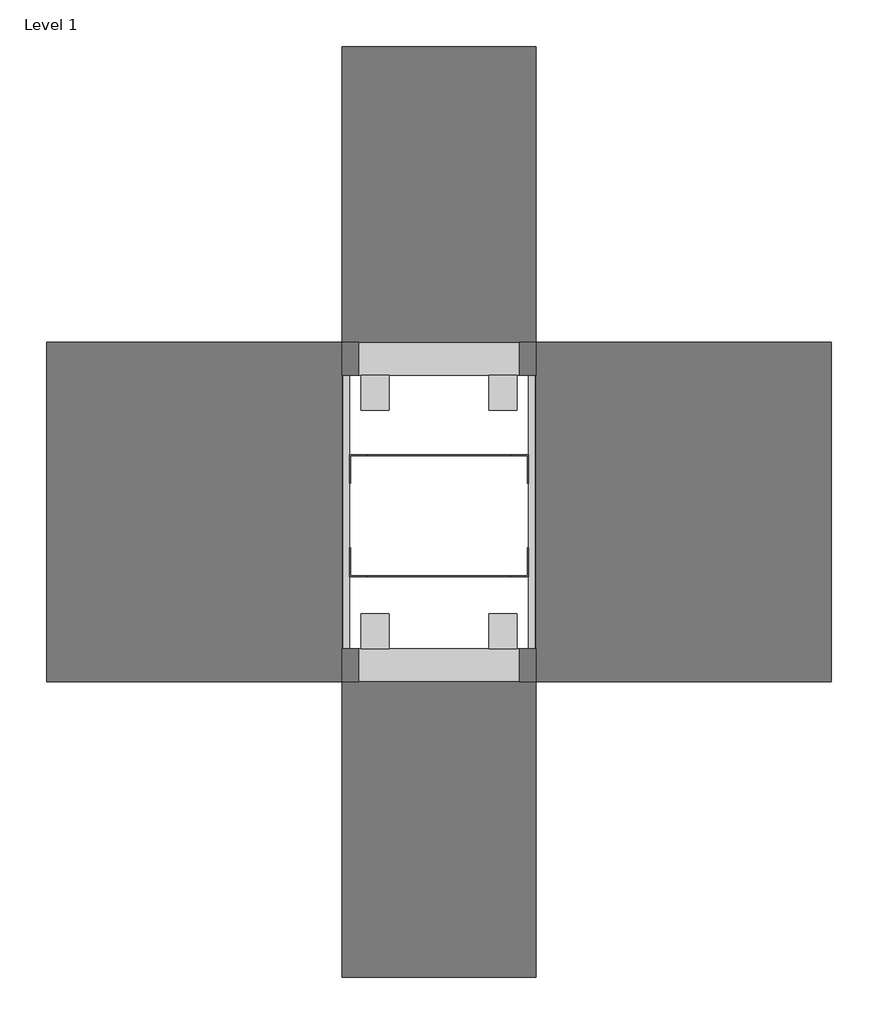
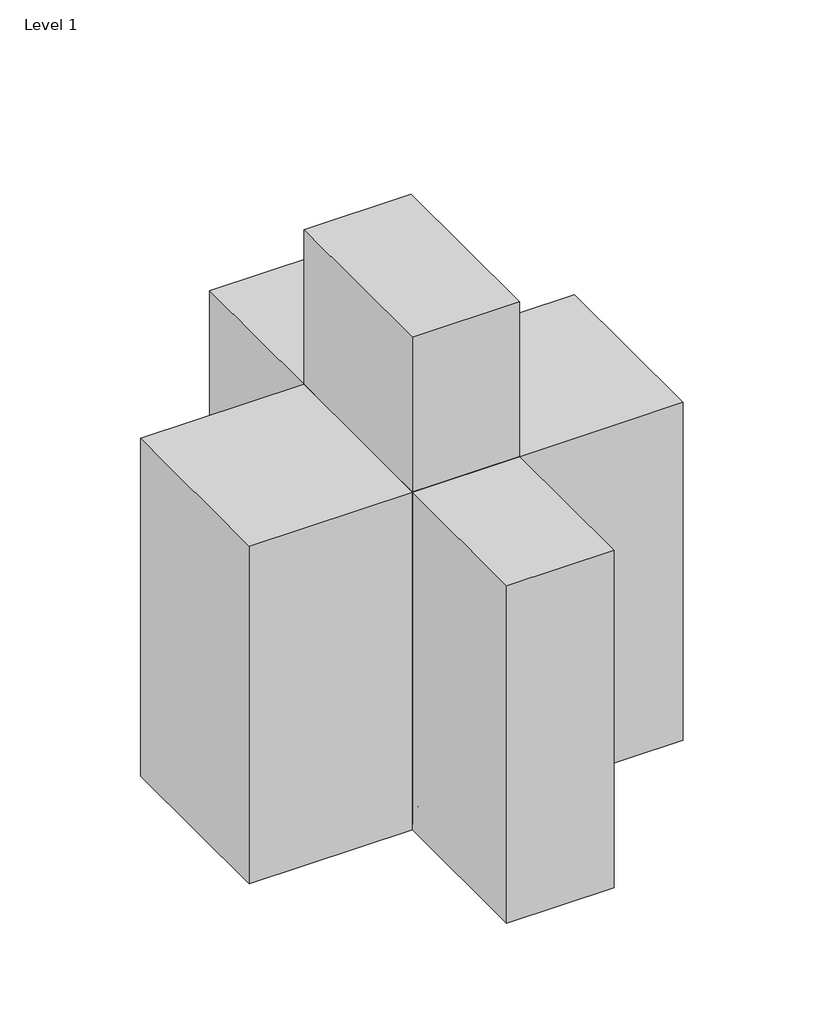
# One storey, incomplete: 1 electric appliance.
"""IFC4 building model written with IfcOpenShell, lengths in millimetres."""

import ifcopenshell
import ifcopenshell.guid

model = None  # the IFC model being written
_history = None  # IfcOwnerHistory: only IFC2X3 demands one
_inside = {}  # id of a spatial element -> (the spatial element, [elements in it])
_under = {}  # id of a project, library or spatial element -> (it, [spatial elements below it])
_declared = {}  # id of a project -> (the project, [libraries it declares])
_typed = {}  # id of a type object -> (the type object, [elements of that type])
_made_of = {}  # id of a material, layer set ... -> (it, [elements and type objects made of it])


def new_model(schema):
    """Start an empty IFC model of exactly this schema.

    Asked for "IFC4X3", IfcOpenShell would pick the latest addendum, in which some entities
    have other attributes; the version numbers below select the first issue.
    IFC2X3 requires an IfcOwnerHistory on every rooted entity: one is made here for all.
    """
    global model, _history
    if schema == "IFC4X3":
        model = ifcopenshell.file(schema_version=(4, 3, 0, 0))
    else:
        model = ifcopenshell.file(schema=schema)
    _inside.clear()
    _under.clear()
    _declared.clear()
    _typed.clear()
    _made_of.clear()
    _history = None
    if model.schema == "IFC2X3":
        org = make("IfcOrganization", Name="unknown")
        user = make(
            "IfcPersonAndOrganization",
            ThePerson=make("IfcPerson", FamilyName="unknown"),
            TheOrganization=org,
        )
        app = make(
            "IfcApplication",
            ApplicationDeveloper=org,
            Version="unknown",
            ApplicationFullName="unknown",
            ApplicationIdentifier="unknown",
        )
        _history = make(
            "IfcOwnerHistory",
            OwningUser=user,
            OwningApplication=app,
            ChangeAction="ADDED",
            CreationDate=0,
        )
    return model


def make(cls, **values):
    """One entity of the class cls with the attributes given. An attribute that is None is left unset."""
    return model.create_entity(
        cls, **{name: value for name, value in values.items() if value is not None}
    )


def rooted(cls, **values):
    """An entity with a GlobalId (a new one), such as an element, a storey or a relation."""
    return make(cls, GlobalId=ifcopenshell.guid.new(), OwnerHistory=_history, **values)


def si_unit(unit_type, name, prefix=None):
    """IfcSIUnit, for example si_unit("LENGTHUNIT", "METRE", prefix="MILLI")."""
    return make("IfcSIUnit", UnitType=unit_type, Prefix=prefix, Name=name)


def assignment(units):
    """IfcUnitAssignment: the units of a project."""
    return None if units is None else make("IfcUnitAssignment", Units=units)


def point(xyz):
    """IfcCartesianPoint."""
    return None if xyz is None else make("IfcCartesianPoint", Coordinates=xyz)


def direction(xyz):
    """IfcDirection."""
    return None if xyz is None else make("IfcDirection", DirectionRatios=xyz)


def frame(location, z_axis=None, x_axis=None):
    """IfcAxis2Placement3D, a coordinate frame: its origin and axes. An axis left out is left unset."""
    return make(
        "IfcAxis2Placement3D",
        Location=point(location),
        Axis=direction(z_axis),
        RefDirection=direction(x_axis),
    )


def origin():
    """The frame at (0, 0, 0) with its axes left unset."""
    return frame((0.0, 0.0, 0.0))


def origin_with_axes():
    """The frame at (0, 0, 0) with the z axis (0, 0, 1) and the x axis (1, 0, 0) written out."""
    return frame((0.0, 0.0, 0.0), z_axis=(0.0, 0.0, 1.0), x_axis=(1.0, 0.0, 0.0))


def place(relative_to, where):
    """IfcLocalPlacement: puts the frame where relative to a parent placement (None: the world)."""
    return make(
        "IfcLocalPlacement", PlacementRelTo=relative_to, RelativePlacement=where
    )


def context(
    kind, dimensions, precision=None, world=None, true_north=None, identifier=None
):
    """IfcGeometricRepresentationContext, for example the 3D "Model" context."""
    return make(
        "IfcGeometricRepresentationContext",
        ContextIdentifier=identifier,
        ContextType=kind,
        CoordinateSpaceDimension=dimensions,
        Precision=precision,
        WorldCoordinateSystem=world,
        TrueNorth=true_north,
    )


def project(units=None, contexts=None):
    """IfcProject with its units and contexts."""
    return rooted(
        "IfcProject",
        Name="project",
        RepresentationContexts=contexts,
        UnitsInContext=assignment(units),
    )


def spatial(cls, under=None, at=None, **own):
    """A site, building, storey or space (cls), placed at a placement, below another one or the project."""
    s = rooted(cls, ObjectPlacement=at, **own)
    if under is not None:
        _under.setdefault(under.id(), (under, []))[1].append(s)
    return s


def polyline(points):
    """IfcPolyline through the points."""
    return make("IfcPolyline", Points=[point(p) for p in points])


def circle_curve(where, radius):
    """IfcCircle in the frame where."""
    return make("IfcCircle", Position=where, Radius=radius)


def outline(outer, holes=None, kind="AREA"):
    """IfcArbitraryClosedProfileDef: a profile drawn as a closed curve; with holes, ...WithVoids."""
    if holes is None:
        return make("IfcArbitraryClosedProfileDef", ProfileType=kind, OuterCurve=outer)
    return make(
        "IfcArbitraryProfileDefWithVoids",
        ProfileType=kind,
        OuterCurve=outer,
        InnerCurves=holes,
    )


def extrude(swept, where, along, depth):
    """IfcExtrudedAreaSolid: the profile swept, set in the frame where, extruded along a direction by depth."""
    return make(
        "IfcExtrudedAreaSolid",
        SweptArea=swept,
        Position=where,
        ExtrudedDirection=direction(along),
        Depth=depth,
    )


def shape(context_of_items, identifier, shape_type, items):
    """IfcShapeRepresentation: the items that make up one representation, for example the "Body"."""
    return make(
        "IfcShapeRepresentation",
        ContextOfItems=context_of_items,
        RepresentationIdentifier=identifier,
        RepresentationType=shape_type,
        Items=items,
    )


def source(mapping_origin, context_of_items, identifier, shape_type, items):
    """IfcRepresentationMap: a shape defined once, which mapped items show again and again."""
    return make(
        "IfcRepresentationMap",
        MappingOrigin=mapping_origin,
        MappedRepresentation=shape(context_of_items, identifier, shape_type, items),
    )


def transform(
    local_origin,
    x_axis=None,
    y_axis=None,
    z_axis=None,
    scale=None,
    scale2=None,
    scale3=None,
    uniform=True,
):
    """IfcCartesianTransformationOperator3D, or its non-uniform kind. x_axis, y_axis, z_axis: its Axis1, 2, 3."""
    if uniform:
        return make(
            "IfcCartesianTransformationOperator3D",
            Axis1=direction(x_axis),
            Axis2=direction(y_axis),
            LocalOrigin=point(local_origin),
            Scale=scale,
            Axis3=direction(z_axis),
        )
    return make(
        "IfcCartesianTransformationOperator3DnonUniform",
        Axis1=direction(x_axis),
        Axis2=direction(y_axis),
        LocalOrigin=point(local_origin),
        Scale=scale,
        Axis3=direction(z_axis),
        Scale2=scale2,
        Scale3=scale3,
    )


def mapped(mapping_source, mapping_target):
    """IfcMappedItem: shows the shape of a source again, moved by a transform."""
    return make(
        "IfcMappedItem", MappingSource=mapping_source, MappingTarget=mapping_target
    )


def made_of(thing, what):
    """Note that an element or type object is made of a material, layer set ...; save() writes the relation."""
    if what is not None:
        _made_of.setdefault(what.id(), (what, []))[1].append(thing)
    return thing


def element(
    cls,
    number,
    at=None,
    inside=None,
    cuts=None,
    type_object=None,
    material=None,
    context=None,
    identifier="Body",
    shape_type=None,
    held_by="IfcProductDefinitionShape",
    body=None,
    shapes=None,
    **own,
):
    """One element of the class cls, such as IfcWall. Its Tag is "e" and its number.

    at: its placement. inside: the storey or other place that contains it. cuts: it is an
    opening in that element (IfcRelVoidsElement). A single representation is given by context,
    identifier, shape_type and body (its items); several are given by shapes. held_by: the class
    of the entity that holds the representations. save() writes the other relations.
    """
    e = rooted(cls, Tag="e%d" % number, ObjectPlacement=at, **own)
    if body is not None:
        shapes = [shape(context, identifier, shape_type, body)]
    if shapes is not None:
        e.Representation = make(held_by, Representations=shapes)
    if inside is not None:
        _inside.setdefault(inside.id(), (inside, []))[1].append(e)
    if cuts is not None:
        rooted(
            "IfcRelVoidsElement", RelatingBuildingElement=cuts, RelatedOpeningElement=e
        )
    if type_object is not None:
        _typed.setdefault(type_object.id(), (type_object, []))[1].append(e)
    return made_of(e, material)


def aggregate(whole, parts):
    """IfcRelAggregates: a whole, such as a stair, and the parts it consists of."""
    return rooted("IfcRelAggregates", RelatingObject=whole, RelatedObjects=parts)


def save(model, path):
    """Write the relations noted so far, then the file.

    IfcRelAggregates (storeys below a building ...), IfcRelContainedInSpatialStructure (elements
    in a storey), IfcRelDefinesByType, IfcRelAssociatesMaterial and IfcRelDeclares: one each for
    every whole, place, type object, material and project.
    """
    for whole, parts in _under.values():
        aggregate(whole, parts)
    for where, things in _inside.values():
        rooted(
            "IfcRelContainedInSpatialStructure",
            RelatedElements=things,
            RelatingStructure=where,
        )
    for kind, things in _typed.values():
        rooted("IfcRelDefinesByType", RelatedObjects=things, RelatingType=kind)
    for what, things in _made_of.values():
        rooted("IfcRelAssociatesMaterial", RelatedObjects=things, RelatingMaterial=what)
    for by, libraries in _declared.values():
        rooted("IfcRelDeclares", RelatingContext=by, RelatedDefinitions=libraries)
    model.write(path)


def plane_surface(at):
    """IfcPlane: the flat surface through the origin of the frame at, square to its z axis."""
    return make("IfcPlane", Position=at)


def cylinder_surface(at, radius):
    """IfcCylindricalSurface: all points at the distance radius from the z axis of the frame at."""
    return make("IfcCylindricalSurface", Position=at, Radius=radius)


def advanced_brep(points, edges, surfaces, faces):
    """IfcAdvancedBrep: a solid bounded by faces that lie on surfaces and meet in shared edges.

    An edge is (start, end): straight between two places in points (the first is 0);
    or (start, end, curve); or (start, end, curve, False) where it runs against its curve.
    A face is (place in surfaces, loops), or (place, loops, False) where it looks against
    its surface's normal. A loop lists edges by number (the first is 1), with a minus sign
    where the edge is run from its end to its start. The first loop is the outer one.
    """
    corners = [point(p) for p in points]
    vertices = [make("IfcVertexPoint", VertexGeometry=c) for c in corners]
    made = []
    for start, end, *more in edges:
        made.append(
            make(
                "IfcEdgeCurve",
                EdgeStart=vertices[start],
                EdgeEnd=vertices[end],
                EdgeGeometry=more[0] if more else make("IfcPolyline", Points=[corners[start], corners[end]]),
                SameSense=more[1] if len(more) > 1 else True,
            )
        )
    hull = []
    for where, loops, *sense in faces:
        bounds = []
        for j, loop in enumerate(loops):
            ring = [make("IfcOrientedEdge", EdgeElement=made[abs(k) - 1], Orientation=k > 0) for k in loop]
            bounds.append(
                make(
                    "IfcFaceOuterBound" if j == 0 else "IfcFaceBound",
                    Bound=make("IfcEdgeLoop", EdgeList=ring),
                    Orientation=True,
                )
            )
        hull.append(make("IfcAdvancedFace", Bounds=bounds, FaceSurface=surfaces[where], SameSense=sense[0] if sense else True))
    return make("IfcAdvancedBrep", Outer=make("IfcClosedShell", CfsFaces=hull))


def electric_appliance_40_ru_fa5b6344(model_context):
    return source(origin(), model_context, "Body", "SolidModel", [
        extrude(outline(polyline([(-155.2194, -423.4053), (-241.5794, -423.4053), (-241.5794, -314.1853), (-155.2194, -314.1853), (-155.2194, -423.4053)])), frame((0.0, 0.0, 32.5), z_axis=(0.0, 0.0, 1.0), x_axis=(1.0, 0.0, 0.0)), (0.0, 0.0, 1.0), 76.2),
        extrude(outline(polyline([(-155.2194, 423.4053), (-155.2194, 314.1853), (-241.5794, 314.1853), (-241.5794, 423.4053), (-155.2194, 423.4053)])), frame((0.0, 0.0, 32.5), z_axis=(0.0, 0.0, 1.0), x_axis=(1.0, 0.0, 0.0)), (0.0, 0.0, 1.0), 76.2),
        extrude(outline(polyline([(155.2194, 423.4053), (241.5794, 423.4053), (241.5794, 314.1853), (155.2194, 314.1853), (155.2194, 423.4053)])), frame((0.0, 0.0, 32.5), z_axis=(0.0, 0.0, 1.0), x_axis=(1.0, 0.0, 0.0)), (0.0, 0.0, 1.0), 76.2),
        extrude(outline(polyline([(155.2194, -423.4053), (155.2194, -314.1853), (241.5794, -314.1853), (241.5794, -423.4053), (155.2194, -423.4053)])), frame((0.0, 0.0, 32.5), z_axis=(0.0, 0.0, 1.0), x_axis=(1.0, 0.0, 0.0)), (0.0, 0.0, 1.0), 76.2),
        extrude(outline(polyline([(1997.825, 299.9994), (1997.825, -299.9994), (32.5, -299.9994), (32.5, 299.9994), (1997.825, 299.9994)]), holes=[polyline([(1921.625, 249.1994), (108.7, 249.1994), (108.7, -249.1994), (1921.625, -249.1994), (1921.625, 249.1994)])]), frame((0.0, 423.4053, 0.0), z_axis=(0.0, 1.0, 0.0), x_axis=(0.0, 0.0, 1.0)), (0.0, 0.0, 1.0), 101.6),
        extrude(outline(polyline([(1997.825, 299.9994), (1997.825, -299.9994), (32.5, -299.9994), (32.5, 299.9994), (1997.825, 299.9994)]), holes=[polyline([(1921.625, 249.1994), (108.7, 249.1994), (108.7, -249.1994), (1921.625, -249.1994), (1921.625, 249.1994)])]), frame((0.0, -525.0053, 0.0), z_axis=(0.0, 1.0, 0.0), x_axis=(0.0, 0.0, 1.0)), (0.0, 0.0, 1.0), 101.6),
        extrude(outline(polyline([(-276.6494, -423.4053), (-296.6494, -423.4053), (-296.6494, 423.4053), (-276.6494, 423.4053), (-276.6494, -423.4053)])), frame((0.0, 0.0, 32.5), z_axis=(0.0, 0.0, 1.0), x_axis=(1.0, 0.0, 0.0)), (0.0, 0.0, 1.0), 137.5),
        extrude(outline(polyline([(296.6494, -423.4053), (276.6494, -423.4053), (276.6494, 423.4053), (296.6494, 423.4053), (296.6494, -423.4053)])), frame((0.0, 0.0, 32.5), z_axis=(0.0, 0.0, 1.0), x_axis=(1.0, 0.0, 0.0)), (0.0, 0.0, 1.0), 137.5),
        extrude(outline(polyline([(296.6494, -423.4053), (276.6494, -423.4053), (276.6494, 423.4053), (296.6494, 423.4053), (296.6494, -423.4053)])), frame((0.0, 0.0, 1860.325), z_axis=(0.0, 0.0, 1.0), x_axis=(1.0, 0.0, 0.0)), (0.0, 0.0, 1.0), 137.5),
        extrude(outline(polyline([(-276.6494, -423.4053), (-296.6494, -423.4053), (-296.6494, 423.4053), (-276.6494, 423.4053), (-276.6494, -423.4053)])), frame((0.0, 0.0, 1860.325), z_axis=(0.0, 0.0, 1.0), x_axis=(1.0, 0.0, 0.0)), (0.0, 0.0, 1.0), 137.5),
        extrude(outline(polyline([(-276.6494, -423.4053), (-296.6494, -423.4053), (-296.6494, 423.4053), (-276.6494, 423.4053), (-276.6494, -423.4053)])), frame((0.0, 0.0, 945.3125), z_axis=(0.0, 0.0, 1.0), x_axis=(1.0, 0.0, 0.0)), (0.0, 0.0, 1.0), 139.7),
        extrude(outline(polyline([(296.6494, -423.4053), (276.6494, -423.4053), (276.6494, 423.4053), (296.6494, 423.4053), (296.6494, -423.4053)])), frame((0.0, 0.0, 945.3125), z_axis=(0.0, 0.0, 1.0), x_axis=(1.0, 0.0, 0.0)), (0.0, 0.0, 1.0), 139.7),
        advanced_brep(
        [(177.7619, 368.7953, 16.25), (177.7619, 368.7953, 0.0), (177.7619, 368.7953, 32.5), (219.0369, 368.7953, 0.0), (219.0369, 368.7953, 32.5), (219.0369, 368.7953, 16.25)],
        [
            (0, 1),
            (1, 2, circle_curve(frame((177.7619, 368.7953, 16.25), z_axis=(-1.0, 0.0, 0.0), x_axis=(0.0, 0.0, -1.0)), 16.25)),
            (2, 0),
            (2, 1, circle_curve(frame((177.7619, 368.7953, 16.25), z_axis=(-1.0, 0.0, 0.0), x_axis=(0.0, 0.0, -1.0)), 16.25)),
            (1, 3),
            (3, 4, circle_curve(frame((219.0369, 368.7953, 16.25), z_axis=(-1.0, 0.0, 0.0), x_axis=(0.0, 0.0, -1.0)), 16.25)),
            (4, 2),
            (4, 3, circle_curve(frame((219.0369, 368.7953, 16.25), z_axis=(-1.0, 0.0, 0.0), x_axis=(0.0, 0.0, -1.0)), 16.25)),
            (3, 5),
            (5, 4),
        ],
        [
            plane_surface(frame((177.7619, 368.7953, 16.25), z_axis=(-1.0, 0.0, 0.0), x_axis=(0.0, 0.0, -1.0))),
            cylinder_surface(frame((-1210.2260115, 368.7953, 16.25), z_axis=(-1.0, 0.0, 0.0), x_axis=(0.0, 0.0, -1.0)), 16.25),
            plane_surface(frame((219.0369, 368.7953, 16.25), z_axis=(1.0, 0.0, 0.0), x_axis=(0.0, 0.0, -1.0))),
        ],
        [
            (0, [[1, 2, 3]]),
            (0, [[-3, 4, -1]]),
            (1, [[-2, 5, 6, 7]]),
            (1, [[-4, -7, 8, -5]]),
            (2, [[-6, 9, 10]]),
            (2, [[-8, -10, -9]]),
        ],
    ),
        advanced_brep(
        [(-219.0369, 368.7953, 16.25), (-219.0369, 368.7953, 0.0), (-219.0369, 368.7953, 32.5), (-177.7619, 368.7953, 0.0), (-177.7619, 368.7953, 32.5), (-177.7619, 368.7953, 16.25)],
        [
            (0, 1),
            (1, 2, circle_curve(frame((-219.0369, 368.7953, 16.25), z_axis=(-1.0, 0.0, 0.0), x_axis=(0.0, 0.0, -1.0)), 16.25)),
            (2, 0),
            (2, 1, circle_curve(frame((-219.0369, 368.7953, 16.25), z_axis=(-1.0, 0.0, 0.0), x_axis=(0.0, 0.0, -1.0)), 16.25)),
            (1, 3),
            (3, 4, circle_curve(frame((-177.7619, 368.7953, 16.25), z_axis=(-1.0, 0.0, 0.0), x_axis=(0.0, 0.0, -1.0)), 16.25)),
            (4, 2),
            (4, 3, circle_curve(frame((-177.7619, 368.7953, 16.25), z_axis=(-1.0, 0.0, 0.0), x_axis=(0.0, 0.0, -1.0)), 16.25)),
            (3, 5),
            (5, 4),
        ],
        [
            plane_surface(frame((-219.0369, 368.7953, 16.25), z_axis=(-1.0, 0.0, 0.0), x_axis=(0.0, 0.0, -1.0))),
            cylinder_surface(frame((-1210.2260115, 368.7953, 16.25), z_axis=(-1.0, 0.0, 0.0), x_axis=(0.0, 0.0, -1.0)), 16.25),
            plane_surface(frame((-177.7619, 368.7953, 16.25), z_axis=(1.0, 0.0, 0.0), x_axis=(0.0, 0.0, -1.0))),
        ],
        [
            (0, [[1, 2, 3]]),
            (0, [[-3, 4, -1]]),
            (1, [[-2, 5, 6, 7]]),
            (1, [[-4, -7, 8, -5]]),
            (2, [[-6, 9, 10]]),
            (2, [[-8, -10, -9]]),
        ],
    ),
        advanced_brep(
        [(177.7619, -368.7953, 16.25), (177.7619, -368.7953, 0.0), (177.7619, -368.7953, 32.5), (219.0369, -368.7953, 0.0), (219.0369, -368.7953, 32.5), (219.0369, -368.7953, 16.25)],
        [
            (0, 1),
            (1, 2, circle_curve(frame((177.7619, -368.7953, 16.25), z_axis=(-1.0, 0.0, 0.0), x_axis=(0.0, 0.0, -1.0)), 16.25)),
            (2, 0),
            (2, 1, circle_curve(frame((177.7619, -368.7953, 16.25), z_axis=(-1.0, 0.0, 0.0), x_axis=(0.0, 0.0, -1.0)), 16.25)),
            (1, 3),
            (3, 4, circle_curve(frame((219.0369, -368.7953, 16.25), z_axis=(-1.0, 0.0, 0.0), x_axis=(0.0, 0.0, -1.0)), 16.25)),
            (4, 2),
            (4, 3, circle_curve(frame((219.0369, -368.7953, 16.25), z_axis=(-1.0, 0.0, 0.0), x_axis=(0.0, 0.0, -1.0)), 16.25)),
            (3, 5),
            (5, 4),
        ],
        [
            plane_surface(frame((177.7619, -368.7953, 16.25), z_axis=(-1.0, 0.0, 0.0), x_axis=(0.0, 0.0, -1.0))),
            cylinder_surface(frame((-1210.2260115, -368.7953, 16.25), z_axis=(-1.0, 0.0, 0.0), x_axis=(0.0, 0.0, -1.0)), 16.25),
            plane_surface(frame((219.0369, -368.7953, 16.25), z_axis=(1.0, 0.0, 0.0), x_axis=(0.0, 0.0, -1.0))),
        ],
        [
            (0, [[1, 2, 3]]),
            (0, [[-3, 4, -1]]),
            (1, [[-2, 5, 6, 7]]),
            (1, [[-4, -7, 8, -5]]),
            (2, [[-6, 9, 10]]),
            (2, [[-8, -10, -9]]),
        ],
    ),
        advanced_brep(
        [(-219.0369, -368.7953, 16.25), (-219.0369, -368.7953, 0.0), (-219.0369, -368.7953, 32.5), (-177.7619, -368.7953, 0.0), (-177.7619, -368.7953, 32.5), (-177.7619, -368.7953, 16.25)],
        [
            (0, 1),
            (1, 2, circle_curve(frame((-219.0369, -368.7953, 16.25), z_axis=(-1.0, 0.0, 0.0), x_axis=(0.0, 0.0, -1.0)), 16.25)),
            (2, 0),
            (2, 1, circle_curve(frame((-219.0369, -368.7953, 16.25), z_axis=(-1.0, 0.0, 0.0), x_axis=(0.0, 0.0, -1.0)), 16.25)),
            (1, 3),
            (3, 4, circle_curve(frame((-177.7619, -368.7953, 16.25), z_axis=(-1.0, 0.0, 0.0), x_axis=(0.0, 0.0, -1.0)), 16.25)),
            (4, 2),
            (4, 3, circle_curve(frame((-177.7619, -368.7953, 16.25), z_axis=(-1.0, 0.0, 0.0), x_axis=(0.0, 0.0, -1.0)), 16.25)),
            (3, 5),
            (5, 4),
        ],
        [
            plane_surface(frame((-219.0369, -368.7953, 16.25), z_axis=(-1.0, 0.0, 0.0), x_axis=(0.0, 0.0, -1.0))),
            cylinder_surface(frame((-1210.2260115, -368.7953, 16.25), z_axis=(-1.0, 0.0, 0.0), x_axis=(0.0, 0.0, -1.0)), 16.25),
            plane_surface(frame((-177.7619, -368.7953, 16.25), z_axis=(1.0, 0.0, 0.0), x_axis=(0.0, 0.0, -1.0))),
        ],
        [
            (0, [[1, 2, 3]]),
            (0, [[-3, 4, -1]]),
            (1, [[-2, 5, 6, 7]]),
            (1, [[-4, -7, 8, -5]]),
            (2, [[-6, 9, 10]]),
            (2, [[-8, -10, -9]]),
        ],
    ),
        extrude(outline(polyline([(-222.25, -196.8197), (-222.25, -199.9947), (-276.6494, -199.9947), (-276.6494, -111.0947), (-273.4744, -111.0947), (-273.4744, -196.8197), (-222.25, -196.8197)])), frame((0.0, 0.0, 108.7), z_axis=(0.0, 0.0, 1.0), x_axis=(1.0, 0.0, 0.0)), (0.0, 0.0, 1.0), 1812.925),
        extrude(outline(polyline([(-222.25, 173.8197), (-273.4744, 173.8197), (-273.4744, 88.0947), (-276.6494, 88.0947), (-276.6494, 176.9947), (-222.25, 176.9947), (-222.25, 173.8197)])), frame((0.0, 0.0, 108.7), z_axis=(0.0, 0.0, 1.0), x_axis=(1.0, 0.0, 0.0)), (0.0, 0.0, 1.0), 1812.925),
        extrude(outline(polyline([(222.25, -196.8197), (273.4744, -196.8197), (273.4744, -111.0947), (276.6494, -111.0947), (276.6494, -199.9947), (222.25, -199.9947), (222.25, -196.8197)])), frame((0.0, 0.0, 108.7), z_axis=(0.0, 0.0, 1.0), x_axis=(1.0, 0.0, 0.0)), (0.0, 0.0, 1.0), 1812.925),
        extrude(outline(polyline([(222.25, 173.8197), (222.25, 176.9947), (276.6494, 176.9947), (276.6494, 88.0947), (273.4744, 88.0947), (273.4744, 173.8197), (222.25, 173.8197)])), frame((0.0, 0.0, 108.7), z_axis=(0.0, 0.0, 1.0), x_axis=(1.0, 0.0, 0.0)), (0.0, 0.0, 1.0), 1812.925),
        extrude(outline(polyline([(222.25, -196.8197), (222.25, -199.9947), (-222.25, -199.9947), (-222.25, -196.8197), (222.25, -196.8197)])), frame((0.0, 0.0, 108.7), z_axis=(0.0, 0.0, 1.0), x_axis=(1.0, 0.0, 0.0)), (0.0, 0.0, 1.0), 1812.925),
        extrude(outline(polyline([(222.25, 176.9947), (222.25, 173.8197), (-222.25, 173.8197), (-222.25, 176.9947), (222.25, 176.9947)])), frame((0.0, 0.0, 108.7), z_axis=(0.0, 0.0, 1.0), x_axis=(1.0, 0.0, 0.0)), (0.0, 0.0, 1.0), 1812.925),
        extrude(outline(polyline([(299.9994, 525.0053), (299.9994, -525.0053), (-299.9994, -525.0053), (-299.9994, 525.0053), (299.9994, 525.0053)])), frame((0.0, 0.0, 1997.825), z_axis=(0.0, 0.0, 1.0), x_axis=(1.0, 0.0, 0.0)), (0.0, 0.0, 1.0), 914.4),
        extrude(outline(polyline([(299.9994, -1439.4053), (-299.9994, -1439.4053), (-299.9994, -525.0053), (299.9994, -525.0053), (299.9994, -1439.4053)])), origin_with_axes(), (0.0, 0.0, 1.0), 1997.825),
        extrude(outline(polyline([(299.9994, 1439.4053), (299.9994, 525.0053), (-299.9994, 525.0053), (-299.9994, 1439.4053), (299.9994, 1439.4053)])), origin_with_axes(), (0.0, 0.0, 1.0), 1997.825),
        extrude(outline(polyline([(1214.3994, 525.0053), (1214.3994, -525.0053), (299.9994, -525.0053), (299.9994, 525.0053), (1214.3994, 525.0053)])), origin_with_axes(), (0.0, 0.0, 1.0), 1997.825),
        extrude(outline(polyline([(-299.9994, -525.0053), (-1214.3994, -525.0053), (-1214.3994, 525.0053), (-299.9994, 525.0053), (-299.9994, -525.0053)])), origin_with_axes(), (0.0, 0.0, 1.0), 1997.825),
    ])


model = new_model("IFC4")

# Units and contexts
model_context = context("Model", 3, world=origin())
ifc_project = project(units=[si_unit("LENGTHUNIT", "METRE", prefix="MILLI")], contexts=[model_context])

# Site, building, storey
site = spatial("IfcSite", under=ifc_project)
building = spatial("IfcBuilding", under=site)
storey = spatial("IfcBuildingStorey", under=building, Name="Level 1", Elevation=0.0)

# Electric appliance
placement = place(None, origin())
electric_appliance_40_ru_shape = electric_appliance_40_ru_fa5b6344(model_context)
element("IfcElectricAppliance", 1, ObjectType="Cabinet-Server-Chatsworth-Seismicframe-Z4_Series : 40 RU", at=placement, inside=storey, context=model_context, shape_type="MappedRepresentation", body=[
    mapped(electric_appliance_40_ru_shape, transform((-3427.3273395, -153.6773728, 0.0), x_axis=(1.0, 0.0, 0.0), y_axis=(0.0, 1.0, 0.0), z_axis=(0.0, 0.0, 1.0))),
])

save(model, "model.ifc")
